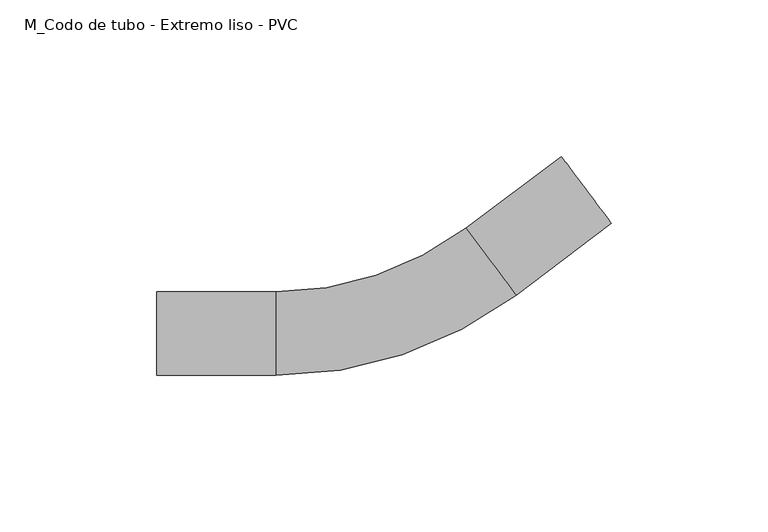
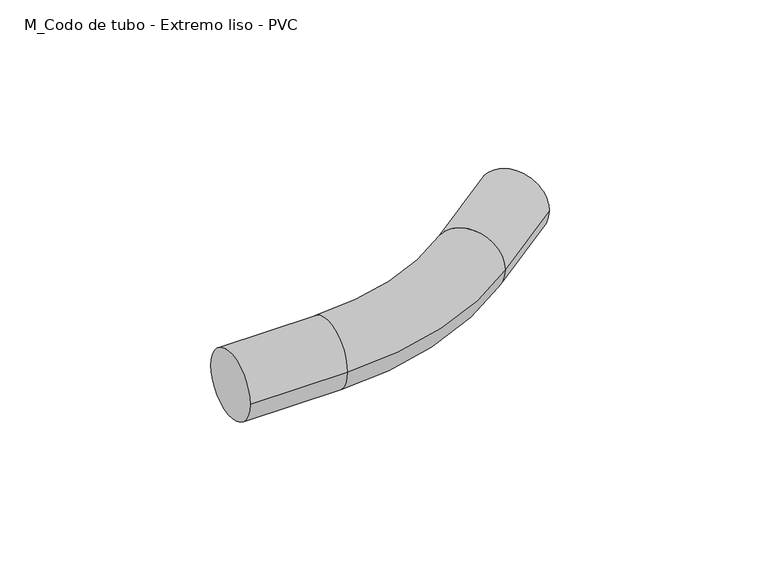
"""IFC4 building model written with IfcOpenShell, lengths in millimetres: cable carrier fitting geometry, M_Codo de tubo - Extremo liso - PVC : CODO ILUMINACION."""

from ifc_helpers import new_model, si_unit, point, frame, origin, place, context, project, spatial, circle_curve, ellipse_curve, trimmed, source, transform, mapped, element, save
from ifc_brep_helpers import plane_surface, cylinder_surface, revolved_surface, advanced_brep


def m_codo_de_tubo_extremo_liso_pvc_374b0c94(model_context):
    return source(origin(), model_context, "Body", "AdvancedBrep", [
        advanced_brep(
        [(-76.2505977, -13.335, 0.0), (-76.2505977, 13.335, 0.0), (-38.1505977, -13.335, 0.0), (-38.1505977, 13.335, 0.0), (22.4927348, 33.5762895, 0.0), (38.5117283, 12.2530452, 0.0), (68.9735059, 35.1373216, 0.0), (52.9545124, 56.4605659, 0.0)],
        [
            (0, 1, circle_curve(frame((-76.2505977, 0.0, 0.0), z_axis=(-1.0, 0.0, 0.0), x_axis=(0.0, 1.0, 0.0)), 13.335)),
            (1, 0, circle_curve(frame((-76.2505977, 0.0, 0.0), z_axis=(-1.0, 0.0, 0.0), x_axis=(0.0, 1.0, 0.0)), 13.335)),
            (0, 2),
            (2, 3, circle_curve(frame((-38.1505977, 0.0, 0.0), z_axis=(-1.0, 0.0, 0.0), x_axis=(0.0, 1.0, 0.0)), 13.335)),
            (3, 1),
            (3, 2, circle_curve(frame((-38.1505977, 0.0, 0.0), z_axis=(-1.0, 0.0, 0.0), x_axis=(0.0, 1.0, 0.0)), 13.335)),
            (4, 3, circle_curve(frame((-38.1505977, 114.3, 0.0), z_axis=(0.0, 0.0, -1.0), x_axis=(0.0, -1.0, 0.0)), 100.965)),
            (2, 5, circle_curve(frame((-38.1505977, 114.3, 0.0), z_axis=(0.0, 0.0, 1.0), x_axis=(0.0, -1.0, 0.0)), 127.635)),
            (5, 4, circle_curve(frame((30.5022315, 22.9146673, 0.0), z_axis=(-0.7995217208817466, -0.6006371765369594, 0.0), x_axis=(-0.6006371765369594, 0.7995217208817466, 0.0)), 13.335)),
            (4, 5, circle_curve(frame((30.5022315, 22.9146673, 0.0), z_axis=(-0.7995217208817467, -0.6006371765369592, 0.0), x_axis=(-0.6006371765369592, 0.7995217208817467, 0.0)), 13.335)),
            (6, 7, circle_curve(frame((60.9640091, 45.7989437, 0.0), z_axis=(0.7995217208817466, 0.6006371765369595, 0.0), x_axis=(-0.6006371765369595, 0.7995217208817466, 0.0)), 13.335)),
            (7, 6, circle_curve(frame((60.9640091, 45.7989437, 0.0), z_axis=(0.7995217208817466, 0.6006371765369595, 0.0), x_axis=(-0.6006371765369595, 0.7995217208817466, 0.0)), 13.335)),
            (5, 6),
            (7, 4),
        ],
        [
            plane_surface(frame((-76.2505977, 0.0, 0.0), z_axis=(-1.0, 0.0, 0.0), x_axis=(0.0, 0.0, 1.0))),
            cylinder_surface(frame((-76.2505977, 0.0, 0.0), z_axis=(-1.0, 0.0, 0.0), x_axis=(0.0, 1.0, 0.0)), 13.335),
            revolved_surface(trimmed(ellipse_curve(frame((-38.1505977, 0.0, 0.0), z_axis=(-1.0, 0.0, 0.0), x_axis=(0.0, 1.0, 0.0)), 13.335, 13.335), [point((-38.1505977, -13.335, 0.0))], [point((-38.1505977, 13.335, 0.0))], True, "CARTESIAN"), (-38.1505977, 114.3, 0.0), (0.0, 0.0, 1.0)),
            revolved_surface(trimmed(ellipse_curve(frame((-38.1505977, 0.0, 0.0), z_axis=(-1.0, 0.0, 0.0), x_axis=(0.0, 1.0, 0.0)), 13.335, 13.335), [point((-38.1505977, 13.335, 0.0))], [point((-38.1505977, -13.335, 0.0))], True, "CARTESIAN"), (-38.1505977, 114.3, 0.0), (0.0, 0.0, 1.0)),
            plane_surface(frame((60.9640091, 45.7989437, 0.0), z_axis=(0.7995217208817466, 0.6006371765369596, 0.0), x_axis=(0.0, 0.0, 1.0))),
            cylinder_surface(frame((30.5022315, 22.9146673, 0.0), z_axis=(-0.7995217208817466, -0.6006371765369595, 0.0), x_axis=(-0.6006371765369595, 0.7995217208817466, 0.0)), 13.335),
        ],
        [
            (0, [[1, 2]]),
            (1, [[-1, 3, 4, 5]]),
            (1, [[-2, -5, 6, -3]]),
            (2, [[7, -4, 8, 9]]),
            (3, [[-8, -6, -7, 10]]),
            (4, [[11, 12]]),
            (5, [[-9, 13, -12, 14]]),
            (5, [[-10, -14, -11, -13]]),
        ],
    ),
    ])


if __name__ == "__main__":
    model = new_model("IFC4")
    model_context = context("Model", 3, world=origin())
    ifc_project = project(units=[si_unit("LENGTHUNIT", "METRE", prefix="MILLI")], contexts=[model_context])
    site = spatial("IfcSite", under=ifc_project)
    building = spatial("IfcBuilding", under=site)
    placement = place(None, origin())
    m_codo_de_tubo_extremo_liso_pvc_shape = m_codo_de_tubo_extremo_liso_pvc_374b0c94(model_context)
    element("IfcCableCarrierFitting", 1, ObjectType="M_Codo de tubo - Extremo liso - PVC : CODO ILUMINACION", at=placement, inside=building, context=model_context, shape_type="MappedRepresentation", body=[
        mapped(m_codo_de_tubo_extremo_liso_pvc_shape, transform((0.0, 0.0, 0.0), x_axis=(1.0, 0.0, 0.0), y_axis=(0.0, 1.0, 0.0), z_axis=(0.0, 0.0, 1.0))),
    ])
    save(model, "model.ifc")
